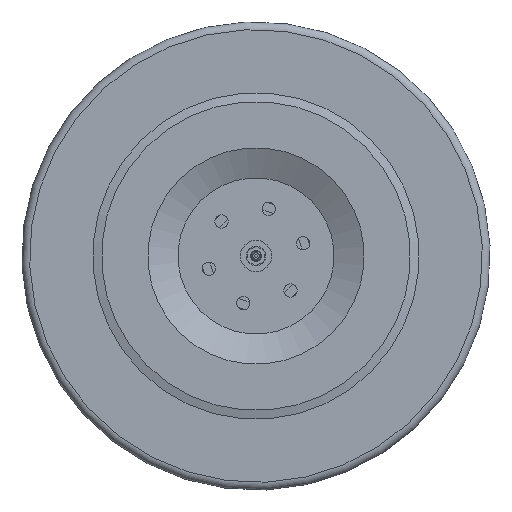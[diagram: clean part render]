
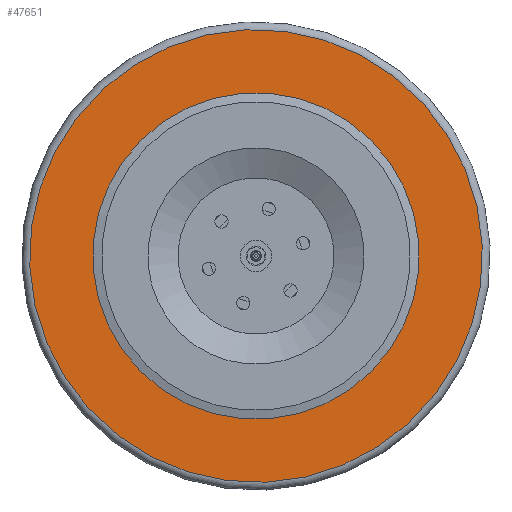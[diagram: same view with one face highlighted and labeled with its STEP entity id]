
A CAD part, left-side view. The second image highlights one B-rep face of the part: STEP entity #47651.
In plain terms, the highlighted planar face has unit normal (-1, 0, 0).
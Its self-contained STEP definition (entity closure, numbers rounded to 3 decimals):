
#1229=FACE_BOUND('',#5436,.T.);
#1489=PLANE('',#50213);
#2922=FACE_OUTER_BOUND('',#5435,.T.);
#5435=EDGE_LOOP('',(#30143));
#5436=EDGE_LOOP('',(#30144));
#15757=CIRCLE('',#50206,145.);
#15763=CIRCLE('',#50214,104.5);
#18318=VERTEX_POINT('',#69220);
#18323=VERTEX_POINT('',#69234);
#22910=EDGE_CURVE('',#18318,#18318,#15757,.T.);
#22917=EDGE_CURVE('',#18323,#18323,#15763,.T.);
#30143=ORIENTED_EDGE('',*,*,#22910,.F.);
#30144=ORIENTED_EDGE('',*,*,#22917,.T.);
#47651=ADVANCED_FACE('',(#2922,#1229),#1489,.T.);
#50206=AXIS2_PLACEMENT_3D('',#69221,#55328,#55329);
#50213=AXIS2_PLACEMENT_3D('',#69233,#55343,#55344);
#50214=AXIS2_PLACEMENT_3D('',#69235,#55345,#55346);
#55328=DIRECTION('center_axis',(1.,0.,0.));
#55329=DIRECTION('ref_axis',(0.,0.976,-0.217));
#55343=DIRECTION('center_axis',(-1.,0.,0.));
#55344=DIRECTION('ref_axis',(0.,-0.217,-0.976));
#55345=DIRECTION('center_axis',(1.,0.,0.));
#55346=DIRECTION('ref_axis',(0.,-0.259,-0.966));
#69220=CARTESIAN_POINT('',(-20.,31.493,141.539));
#69221=CARTESIAN_POINT('Origin',(-20.,0.,
0.));
#69233=CARTESIAN_POINT('Origin',(-20.,-102.005,22.697));
#69234=CARTESIAN_POINT('',(-20.,-100.939,27.047));
#69235=CARTESIAN_POINT('Origin',(-20.,0.,
0.));
